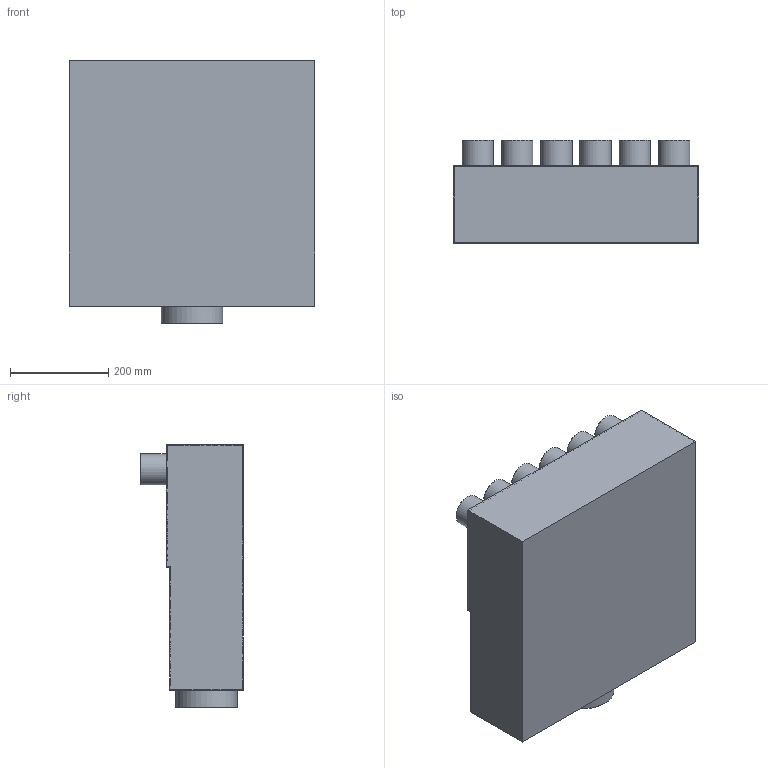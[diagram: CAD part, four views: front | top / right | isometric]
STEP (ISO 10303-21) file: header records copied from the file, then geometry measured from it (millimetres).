
FILE_DESCRIPTION(/* description */ (''),/* implementation_level */ '2;1');
FILE_NAME(/* name */ 'Z:\Output\FRS-VK_6-63_125-V-09355-001.stp',/* time_stamp */ '2017-09-13T14:06:08+02:00',/* author */ ('Engineering1'),/* organization */ (''),/* preprocessor_version */ 'ST-DEVELOPER v16.5',/* originating_system */ 'Autodesk Inventor 2017',/* authorisation */ '');
FILE_SCHEMA (('AUTOMOTIVE_DESIGN { 1 0 10303 214 3 1 1 }'));
Length unit declared in the file: millimetre
Products named in the file (1): FRS-VK_63
Bounding box: 500 x 209.6 x 535 mm (x, y, z)
Volume: 1696006.2 mm3; surface area: 1699060.4 mm2
Topology: 1 solids, 1 shells, 37 faces, 78 edges, 52 vertices
Faces by surface type: plane 23, cylinder 14
Full cylindrical faces by diameter (mm): 60 x6, 64 x6, 121 x1, 125 x1
Entity records: 984 total; most frequent: DIRECTION 168, CARTESIAN_POINT 154, ORIENTED_EDGE 128, EDGE_LOOP 72, AXIS2_PLACEMENT_3D 66, EDGE_CURVE 64, VERTEX_POINT 52, FACE_OUTER_BOUND 37
